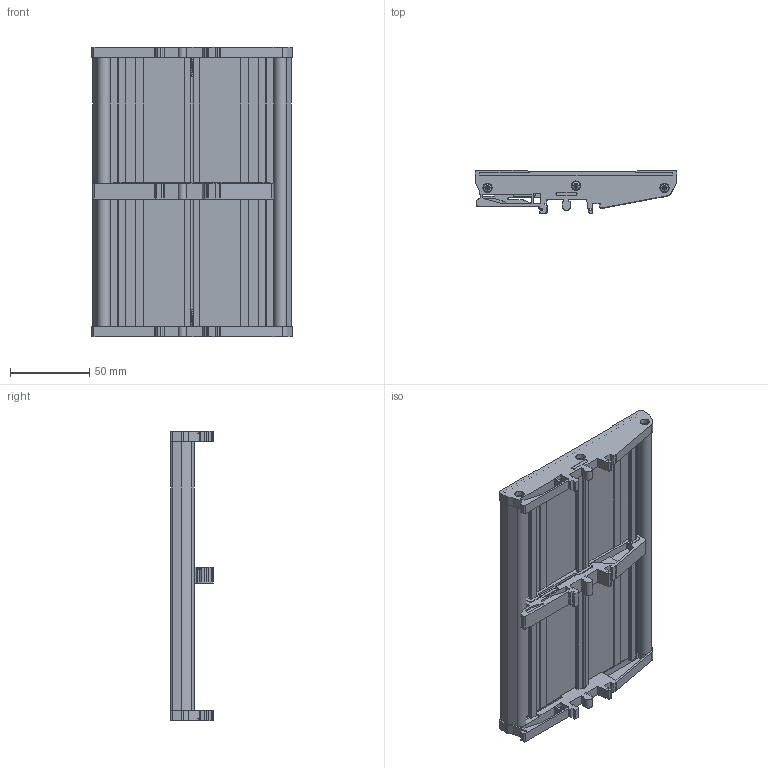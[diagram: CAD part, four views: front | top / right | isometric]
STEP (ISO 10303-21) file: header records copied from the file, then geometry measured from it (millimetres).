
FILE_DESCRIPTION(('FreeCAD Model'),'2;1');
FILE_NAME('C:/Users/Tino Hellberg/Desktop/EM-KP122-140.step', '2019-11-12T15:13:43',('Author'),(''), 'Open CASCADE STEP processor 7.3','FreeCAD','Unknown');
FILE_SCHEMA(('AUTOMOTIVE_DESIGN { 1 0 10303 214 1 1 1 1 }'));
Length unit declared in the file: millimetre
Products named in the file (10): Schr.Lins._3x14-Z_01151118.1; Schr.Lins._3x14-Z_01151118.002; UM_122-SEFEL_H.SELECT; Schr.Lins._3x14-Z_01151118.003; Schr.Lins._3x14-Z_01151118.004; Schr.Lins._3x14-Z_01151118.005; Schr.Lins._3x14-Z_01151118.006; UM_122-SEFER_H.SELECT; 2909471; Cut001
Bounding box: 127.5 x 27.1 x 182.95 mm (x, y, z)
Volume: 96380.5 mm3; surface area: 90683 mm2
Topology: 10 solids, 10 shells, 1239 faces, 3624 edges, 2408 vertices
Faces by surface type: plane 652, cylinder 497, cone 54, sphere 12, torus 12, bspline 12
Full cylindrical faces by diameter (mm): 3 x2
Entity records: 191157 total; most frequent: CARTESIAN_POINT 120866, DIRECTION 12416, LINE 7337, VECTOR 7337, ORIENTED_EDGE 7224, PCURVE 7224, DEFINITIONAL_REPRESENTATION 7224, EDGE_CURVE 3612
